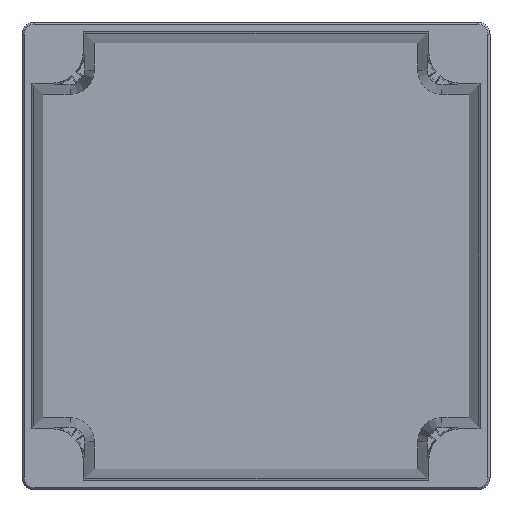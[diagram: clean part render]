
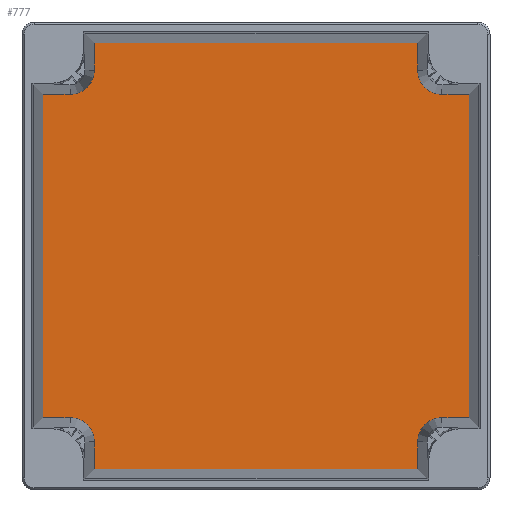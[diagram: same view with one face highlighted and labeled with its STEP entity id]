
A CAD part, front view. The second image highlights one B-rep face of the part: STEP entity #777.
In plain terms, the highlighted planar face has unit normal (0, -1, 0).
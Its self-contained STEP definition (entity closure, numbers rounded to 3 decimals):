
#755 = EDGE_CURVE ( 'NONE', #914, #756, #2904, .T. ) ;
#756 = VERTEX_POINT ( 'NONE', #2906 ) ;
#757 = ORIENTED_EDGE ( 'NONE', *, *, #758, .T. ) ;
#758 = EDGE_CURVE ( 'NONE', #756, #759, #2889, .T. ) ;
#759 = VERTEX_POINT ( 'NONE', #2885 ) ;
#760 = ORIENTED_EDGE ( 'NONE', *, *, #761, .T. ) ;
#761 = EDGE_CURVE ( 'NONE', #759, #762, #2841, .T. ) ;
#762 = VERTEX_POINT ( 'NONE', #2837 ) ;
#763 = ORIENTED_EDGE ( 'NONE', *, *, #883, .T. ) ;
#770 = ORIENTED_EDGE ( 'NONE', *, *, #771, .T. ) ;
#771 = EDGE_CURVE ( 'NONE', #779, #905, #2732, .T. ) ;
#777 = ADVANCED_FACE ( 'NONE', ( #2722 ), #2817, .F. ) ;
#778 = EDGE_CURVE ( 'NONE', #946, #779, #2812, .T. ) ;
#779 = VERTEX_POINT ( 'NONE', #2808 ) ;
#786 = EDGE_CURVE ( 'NONE', #873, #789, #2869, .T. ) ;
#787 = ORIENTED_EDGE ( 'NONE', *, *, #931, .T. ) ;
#788 = EDGE_CURVE ( 'NONE', #789, #868, #2865, .T. ) ;
#789 = VERTEX_POINT ( 'NONE', #2861 ) ;
#864 = VERTEX_POINT ( 'NONE', #4189 ) ;
#865 = ORIENTED_EDGE ( 'NONE', *, *, #941, .T. ) ;
#866 = VERTEX_POINT ( 'NONE', #4188 ) ;
#868 = VERTEX_POINT ( 'NONE', #4181 ) ;
#869 = ORIENTED_EDGE ( 'NONE', *, *, #870, .T. ) ;
#870 = EDGE_CURVE ( 'NONE', #896, #945, #4180, .T. ) ;
#871 = ORIENTED_EDGE ( 'NONE', *, *, #788, .T. ) ;
#873 = VERTEX_POINT ( 'NONE', #4176 ) ;
#883 = EDGE_CURVE ( 'NONE', #762, #873, #4039, .T. ) ;
#895 = EDGE_CURVE ( 'NONE', #864, #896, #4025, .T. ) ;
#896 = VERTEX_POINT ( 'NONE', #4021 ) ;
#898 = ORIENTED_EDGE ( 'NONE', *, *, #895, .T. ) ;
#905 = VERTEX_POINT ( 'NONE', #4010 ) ;
#906 = ORIENTED_EDGE ( 'NONE', *, *, #907, .T. ) ;
#907 = EDGE_CURVE ( 'NONE', #905, #908, #4009, .T. ) ;
#908 = VERTEX_POINT ( 'NONE', #4005 ) ;
#909 = ORIENTED_EDGE ( 'NONE', *, *, #910, .T. ) ;
#910 = EDGE_CURVE ( 'NONE', #908, #911, #4004, .T. ) ;
#911 = VERTEX_POINT ( 'NONE', #3952 ) ;
#912 = ORIENTED_EDGE ( 'NONE', *, *, #913, .T. ) ;
#913 = EDGE_CURVE ( 'NONE', #911, #914, #3951, .T. ) ;
#914 = VERTEX_POINT ( 'NONE', #3947 ) ;
#915 = ORIENTED_EDGE ( 'NONE', *, *, #755, .T. ) ;
#931 = EDGE_CURVE ( 'NONE', #866, #864, #3196, .T. ) ;
#932 = ORIENTED_EDGE ( 'NONE', *, *, #786, .T. ) ;
#941 = EDGE_CURVE ( 'NONE', #868, #866, #3063, .T. ) ;
#942 = EDGE_LOOP ( 'NONE', ( #943, #947, #770, #906, #909, #912, #915, #757, #760, #763, #932, #871, #865, #787, #898, #869 ) ) ;
#943 = ORIENTED_EDGE ( 'NONE', *, *, #944, .T. ) ;
#944 = EDGE_CURVE ( 'NONE', #945, #946, #3054, .T. ) ;
#945 = VERTEX_POINT ( 'NONE', #3222 ) ;
#946 = VERTEX_POINT ( 'NONE', #3221 ) ;
#947 = ORIENTED_EDGE ( 'NONE', *, *, #778, .T. ) ;
#2722 = FACE_OUTER_BOUND ( 'NONE', #942, .T. ) ;
#2729 = DIRECTION ( 'NONE',  ( -1., 0., 0. ) ) ;
#2730 = VECTOR ( 'NONE', #2729, 1000. ) ;
#2731 = CARTESIAN_POINT ( 'NONE',  ( 47.529, 74.3, 59.148 ) ) ;
#2732 = LINE ( 'NONE', #2731, #2730 ) ;
#2808 = CARTESIAN_POINT ( 'NONE',  ( 44.898, 74.3, 59.148 ) ) ;
#2809 = DIRECTION ( 'NONE',  ( 0., 0., 1. ) ) ;
#2810 = VECTOR ( 'NONE', #2809, 1000. ) ;
#2811 = CARTESIAN_POINT ( 'NONE',  ( 44.898, 74.3, 51.634 ) ) ;
#2812 = LINE ( 'NONE', #2811, #2810 ) ;
#2813 = DIRECTION ( 'NONE',  ( 0., 0., 1. ) ) ;
#2814 = DIRECTION ( 'NONE',  ( 0., 1., 0. ) ) ;
#2815 = CARTESIAN_POINT ( 'NONE',  ( -56.75, 74.3, -56.75 ) ) ;
#2816 = AXIS2_PLACEMENT_3D ( 'NONE', #2815, #2814, #2813 ) ;
#2817 = PLANE ( 'NONE',  #2816 ) ;
#2837 = CARTESIAN_POINT ( 'NONE',  ( -44.898, 74.3, -51.634 ) ) ;
#2838 = DIRECTION ( 'NONE',  ( 0., 0., 1. ) ) ;
#2839 = DIRECTION ( 'NONE',  ( 0., 1., 0. ) ) ;
#2840 = AXIS2_PLACEMENT_3D ( 'NONE', #2884, #2839, #2838 ) ;
#2841 = CIRCLE ( 'NONE', #2840, 6.736 ) ;
#2861 = CARTESIAN_POINT ( 'NONE',  ( 44.898, 74.3, -59.148 ) ) ;
#2862 = DIRECTION ( 'NONE',  ( 0., 0., 1. ) ) ;
#2863 = VECTOR ( 'NONE', #2862, 1000. ) ;
#2864 = CARTESIAN_POINT ( 'NONE',  ( 44.898, 74.3, -51.634 ) ) ;
#2865 = LINE ( 'NONE', #2864, #2863 ) ;
#2866 = DIRECTION ( 'NONE',  ( 1., 0., 0. ) ) ;
#2867 = VECTOR ( 'NONE', #2866, 1000. ) ;
#2868 = CARTESIAN_POINT ( 'NONE',  ( -47.529, 74.3, -59.148 ) ) ;
#2869 = LINE ( 'NONE', #2868, #2867 ) ;
#2884 = CARTESIAN_POINT ( 'NONE',  ( -51.634, 74.3, -51.634 ) ) ;
#2885 = CARTESIAN_POINT ( 'NONE',  ( -51.634, 74.3, -44.898 ) ) ;
#2886 = DIRECTION ( 'NONE',  ( 1., 0., 0. ) ) ;
#2887 = VECTOR ( 'NONE', #2886, 1000. ) ;
#2888 = CARTESIAN_POINT ( 'NONE',  ( -61.779, 74.3, -44.898 ) ) ;
#2889 = LINE ( 'NONE', #2888, #2887 ) ;
#2904 = LINE ( 'NONE', #2909, #2908 ) ;
#2906 = CARTESIAN_POINT ( 'NONE',  ( -59.148, 74.3, -44.898 ) ) ;
#2907 = DIRECTION ( 'NONE',  ( 0., 0., -1. ) ) ;
#2908 = VECTOR ( 'NONE', #2907, 1000. ) ;
#2909 = CARTESIAN_POINT ( 'NONE',  ( -59.148, 74.3, 47.529 ) ) ;
#3054 = CIRCLE ( 'NONE', #3226, 6.736 ) ;
#3055 = DIRECTION ( 'NONE',  ( 0., 0., 1. ) ) ;
#3056 = DIRECTION ( 'NONE',  ( 0., 1., 0. ) ) ;
#3057 = CARTESIAN_POINT ( 'NONE',  ( 51.634, 74.3, -51.634 ) ) ;
#3062 = AXIS2_PLACEMENT_3D ( 'NONE', #3057, #3056, #3055 ) ;
#3063 = CIRCLE ( 'NONE', #3062, 6.736 ) ;
#3193 = DIRECTION ( 'NONE',  ( 1., 0., 0. ) ) ;
#3194 = VECTOR ( 'NONE', #3193, 1000. ) ;
#3195 = CARTESIAN_POINT ( 'NONE',  ( 61.779, 74.3, -44.898 ) ) ;
#3196 = LINE ( 'NONE', #3195, #3194 ) ;
#3221 = CARTESIAN_POINT ( 'NONE',  ( 44.898, 74.3, 51.634 ) ) ;
#3222 = CARTESIAN_POINT ( 'NONE',  ( 51.634, 74.3, 44.898 ) ) ;
#3223 = DIRECTION ( 'NONE',  ( 0., 0., 1. ) ) ;
#3224 = DIRECTION ( 'NONE',  ( 0., 1., 0. ) ) ;
#3225 = CARTESIAN_POINT ( 'NONE',  ( 51.634, 74.3, 51.634 ) ) ;
#3226 = AXIS2_PLACEMENT_3D ( 'NONE', #3225, #3224, #3223 ) ;
#3947 = CARTESIAN_POINT ( 'NONE',  ( -59.148, 74.3, 44.898 ) ) ;
#3948 = DIRECTION ( 'NONE',  ( -1., 0., 0. ) ) ;
#3949 = VECTOR ( 'NONE', #3948, 1000. ) ;
#3950 = CARTESIAN_POINT ( 'NONE',  ( -61.779, 74.3, 44.898 ) ) ;
#3951 = LINE ( 'NONE', #3950, #3949 ) ;
#3952 = CARTESIAN_POINT ( 'NONE',  ( -51.634, 74.3, 44.898 ) ) ;
#3953 = DIRECTION ( 'NONE',  ( 0., 0., 1. ) ) ;
#3954 = DIRECTION ( 'NONE',  ( 0., 1., 0. ) ) ;
#3955 = CARTESIAN_POINT ( 'NONE',  ( -51.634, 74.3, 51.634 ) ) ;
#3956 = AXIS2_PLACEMENT_3D ( 'NONE', #3955, #3954, #3953 ) ;
#4004 = CIRCLE ( 'NONE', #3956, 6.736 ) ;
#4005 = CARTESIAN_POINT ( 'NONE',  ( -44.898, 74.3, 51.634 ) ) ;
#4006 = DIRECTION ( 'NONE',  ( 0., 0., -1. ) ) ;
#4007 = VECTOR ( 'NONE', #4006, 1000. ) ;
#4008 = CARTESIAN_POINT ( 'NONE',  ( -44.898, 74.3, 51.634 ) ) ;
#4009 = LINE ( 'NONE', #4008, #4007 ) ;
#4010 = CARTESIAN_POINT ( 'NONE',  ( -44.898, 74.3, 59.148 ) ) ;
#4021 = CARTESIAN_POINT ( 'NONE',  ( 59.148, 74.3, 44.898 ) ) ;
#4022 = DIRECTION ( 'NONE',  ( 0., 0., 1. ) ) ;
#4023 = VECTOR ( 'NONE', #4022, 1000. ) ;
#4024 = CARTESIAN_POINT ( 'NONE',  ( 59.148, 74.3, -47.529 ) ) ;
#4025 = LINE ( 'NONE', #4024, #4023 ) ;
#4036 = DIRECTION ( 'NONE',  ( 0., 0., -1. ) ) ;
#4037 = VECTOR ( 'NONE', #4036, 1000. ) ;
#4038 = CARTESIAN_POINT ( 'NONE',  ( -44.898, 74.3, -51.634 ) ) ;
#4039 = LINE ( 'NONE', #4038, #4037 ) ;
#4176 = CARTESIAN_POINT ( 'NONE',  ( -44.898, 74.3, -59.148 ) ) ;
#4177 = DIRECTION ( 'NONE',  ( -1., 0., 0. ) ) ;
#4178 = VECTOR ( 'NONE', #4177, 1000. ) ;
#4179 = CARTESIAN_POINT ( 'NONE',  ( 61.779, 74.3, 44.898 ) ) ;
#4180 = LINE ( 'NONE', #4179, #4178 ) ;
#4181 = CARTESIAN_POINT ( 'NONE',  ( 44.898, 74.3, -51.634 ) ) ;
#4188 = CARTESIAN_POINT ( 'NONE',  ( 51.634, 74.3, -44.898 ) ) ;
#4189 = CARTESIAN_POINT ( 'NONE',  ( 59.148, 74.3, -44.898 ) ) ;
